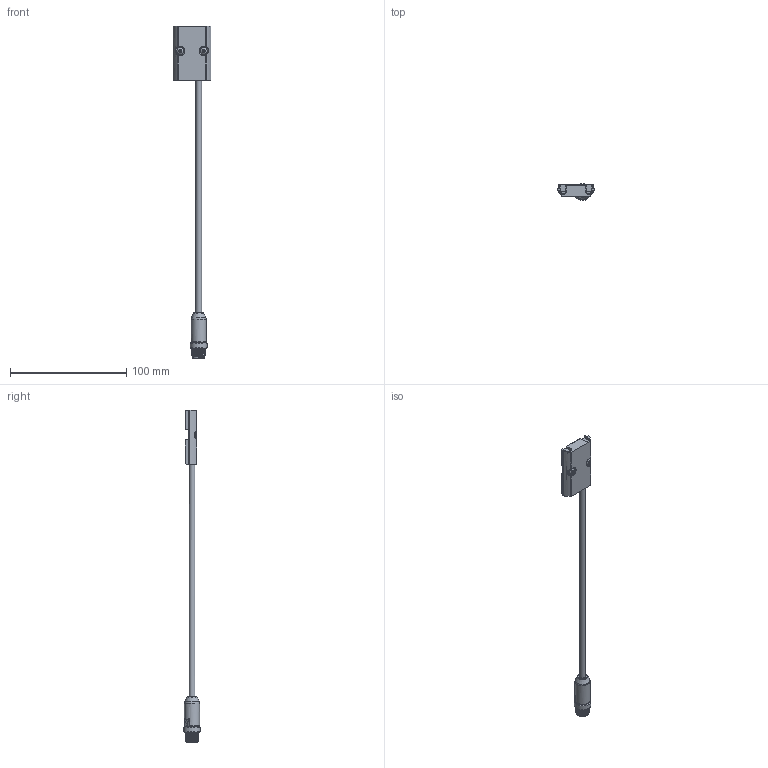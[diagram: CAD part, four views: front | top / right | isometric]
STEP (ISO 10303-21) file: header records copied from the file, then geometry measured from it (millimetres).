
FILE_DESCRIPTION(/* description */ (''),/* implementation_level */ '2;1');
FILE_NAME(/* name */ '12P.stp',/* time_stamp */ '2022-12-01T16:56:55+01:00',/* author */ (''),/* organization */ (''),/* preprocessor_version */ 'ST-DEVELOPER v16.701',/* originating_system */ 'SIEMENS PLM Software NX 1946',/* authorisation */ '');
FILE_SCHEMA (('AP203_CONFIGURATION_CONTROLLED_3D_DESIGN_OF_MECHANICAL_PARTS_AND_ASSEMBLIES_MIM_LF { 1 0 10303 403 2 1 2}'));
Length unit declared in the file: millimetre
Products named in the file (1): MRos3D04D64D7eov
Bounding box: 32 x 14.49 x 285.2 mm (x, y, z)
Volume: 11043.5 mm3; surface area: 16065.1 mm2
Topology: 1 solids, 2 shells, 424 faces, 1115 edges, 712 vertices
Faces by surface type: plane 230, cylinder 82, cone 54, sphere 23, bspline 21, torus 14
Full cylindrical faces by diameter (mm): 0.6 x12, 3.7 x1, 5 x2, 5.5 x2, 6 x1, 8.25 x1, 9.5 x1, 9.7 x1, 10.35 x1, 10.6 x3, 10.8 x1, 13 x1, 14.5 x1
Entity records: 14096 total; most frequent: CARTESIAN_POINT 4059, DIRECTION 2072, ORIENTED_EDGE 2008, EDGE_CURVE 1004, AXIS2_PLACEMENT_3D 768, VERTEX_POINT 675, LINE 536, VECTOR 536
